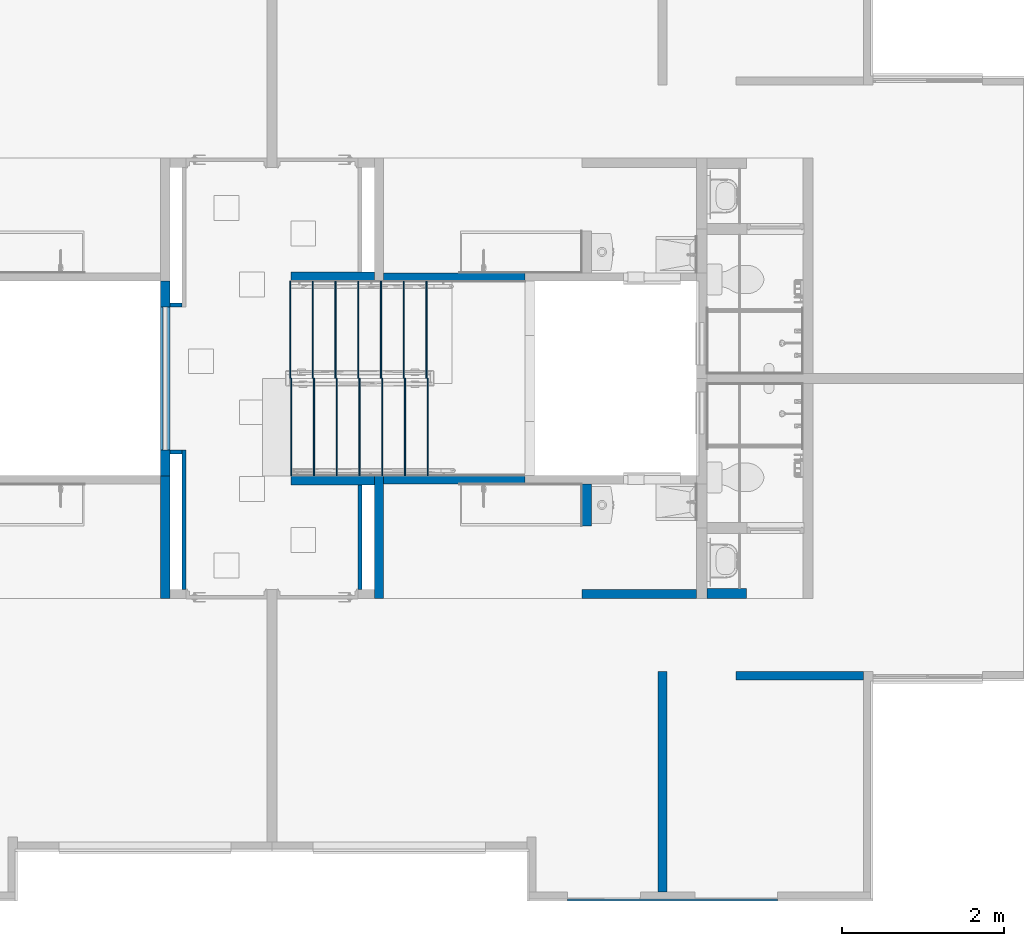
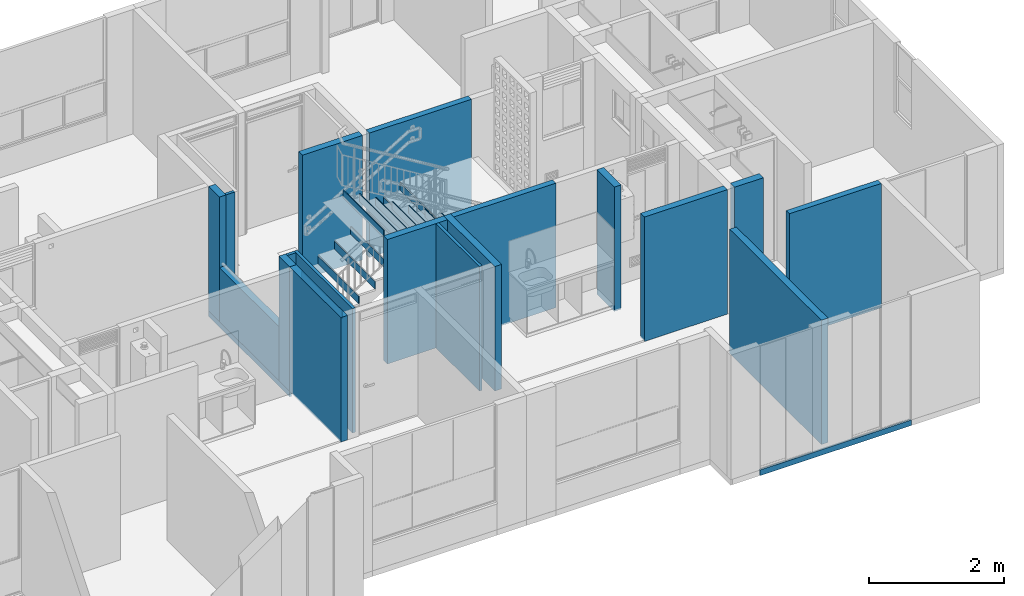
# One storey, part 13 of 48: 34 walls.
"""IFC4 building model written with IfcOpenShell, lengths in metres."""

import ifcopenshell
import ifcopenshell.guid

model = None  # the IFC model being written
_history = None  # IfcOwnerHistory: only IFC2X3 demands one
_inside = {}  # id of a spatial element -> (the spatial element, [elements in it])
_under = {}  # id of a project, library or spatial element -> (it, [spatial elements below it])
_declared = {}  # id of a project -> (the project, [libraries it declares])
_typed = {}  # id of a type object -> (the type object, [elements of that type])
_made_of = {}  # id of a material, layer set ... -> (it, [elements and type objects made of it])


def new_model(schema):
    """Start an empty IFC model of exactly this schema.

    Asked for "IFC4X3", IfcOpenShell would pick the latest addendum, in which some entities
    have other attributes; the version numbers below select the first issue.
    IFC2X3 requires an IfcOwnerHistory on every rooted entity: one is made here for all.
    """
    global model, _history
    if schema == "IFC4X3":
        model = ifcopenshell.file(schema_version=(4, 3, 0, 0))
    else:
        model = ifcopenshell.file(schema=schema)
    _inside.clear()
    _under.clear()
    _declared.clear()
    _typed.clear()
    _made_of.clear()
    _history = None
    if model.schema == "IFC2X3":
        org = make("IfcOrganization", Name="unknown")
        user = make(
            "IfcPersonAndOrganization",
            ThePerson=make("IfcPerson", FamilyName="unknown"),
            TheOrganization=org,
        )
        app = make(
            "IfcApplication",
            ApplicationDeveloper=org,
            Version="unknown",
            ApplicationFullName="unknown",
            ApplicationIdentifier="unknown",
        )
        _history = make(
            "IfcOwnerHistory",
            OwningUser=user,
            OwningApplication=app,
            ChangeAction="ADDED",
            CreationDate=0,
        )
    return model


def make(cls, **values):
    """One entity of the class cls with the attributes given. An attribute that is None is left unset."""
    return model.create_entity(
        cls, **{name: value for name, value in values.items() if value is not None}
    )


def entity(cls, *values):
    """Any entity or typed value of the class cls, its attributes in the order of the schema. None: left unset."""
    e = model.create_entity(cls)
    for i, value in enumerate(values):
        if value is not None:
            e[i] = value
    return e


def rooted(cls, **values):
    """An entity with a GlobalId (a new one), such as an element, a storey or a relation."""
    return make(cls, GlobalId=ifcopenshell.guid.new(), OwnerHistory=_history, **values)


def si_unit(unit_type, name, prefix=None):
    """IfcSIUnit, for example si_unit("LENGTHUNIT", "METRE", prefix="MILLI")."""
    return make("IfcSIUnit", UnitType=unit_type, Prefix=prefix, Name=name)


def converted_unit(unit_type, name, factor, base, dimensions=None, offset=None):
    """IfcConversionBasedUnit, such as the inch: factor (a typed value) times the base unit."""
    return make(
        "IfcConversionBasedUnit"
        if offset is None
        else "IfcConversionBasedUnitWithOffset",
        ConversionOffset=offset,
        Dimensions=None
        if dimensions is None
        else entity("IfcDimensionalExponents", *dimensions),
        UnitType=unit_type,
        Name=name,
        ConversionFactor=make(
            "IfcMeasureWithUnit", ValueComponent=factor, UnitComponent=base
        ),
    )


def derived_unit(unit_type, elements):
    """IfcDerivedUnit: a product of units, each with its exponent."""
    return make(
        "IfcDerivedUnit",
        Elements=[
            make("IfcDerivedUnitElement", Unit=unit, Exponent=power)
            for unit, power in elements
        ],
        UnitType=unit_type,
    )


def assignment(units):
    """IfcUnitAssignment: the units of a project."""
    return None if units is None else make("IfcUnitAssignment", Units=units)


def point(xyz):
    """IfcCartesianPoint."""
    return None if xyz is None else make("IfcCartesianPoint", Coordinates=xyz)


def direction(xyz):
    """IfcDirection."""
    return None if xyz is None else make("IfcDirection", DirectionRatios=xyz)


def frame(location, z_axis=None, x_axis=None):
    """IfcAxis2Placement3D, a coordinate frame: its origin and axes. An axis left out is left unset."""
    return make(
        "IfcAxis2Placement3D",
        Location=point(location),
        Axis=direction(z_axis),
        RefDirection=direction(x_axis),
    )


def origin():
    """The frame at (0, 0, 0) with its axes left unset."""
    return frame((0.0, 0.0, 0.0))


def place(relative_to, where):
    """IfcLocalPlacement: puts the frame where relative to a parent placement (None: the world)."""
    return make(
        "IfcLocalPlacement", PlacementRelTo=relative_to, RelativePlacement=where
    )


def context(
    kind, dimensions, precision=None, world=None, true_north=None, identifier=None
):
    """IfcGeometricRepresentationContext, for example the 3D "Model" context."""
    return make(
        "IfcGeometricRepresentationContext",
        ContextIdentifier=identifier,
        ContextType=kind,
        CoordinateSpaceDimension=dimensions,
        Precision=precision,
        WorldCoordinateSystem=world,
        TrueNorth=true_north,
    )


def subcontext(parent, identifier, kind, view, scale=None):
    """IfcGeometricRepresentationSubContext, for example "Body" below "Model"."""
    return make(
        "IfcGeometricRepresentationSubContext",
        ContextIdentifier=identifier,
        ContextType=kind,
        ParentContext=parent,
        TargetScale=scale,
        TargetView=view,
    )


def project(units=None, contexts=None):
    """IfcProject with its units and contexts."""
    return rooted(
        "IfcProject",
        Name="project",
        RepresentationContexts=contexts,
        UnitsInContext=assignment(units),
    )


def spatial(cls, under=None, at=None, **own):
    """A site, building, storey or space (cls), placed at a placement, below another one or the project."""
    s = rooted(cls, ObjectPlacement=at, **own)
    if under is not None:
        _under.setdefault(under.id(), (under, []))[1].append(s)
    return s


def point_list(points):
    """IfcCartesianPointList2D or 3D."""
    cls = (
        "IfcCartesianPointList2D" if len(points[0]) == 2 else "IfcCartesianPointList3D"
    )
    return make(cls, CoordList=points)


def indexed_curve(points, segments=None, self_intersect=None):
    """IfcIndexedPolyCurve: lines and arcs through numbered points (the first is 1)."""
    return make(
        "IfcIndexedPolyCurve",
        Points=point_list(points),
        Segments=segments,
        SelfIntersect=self_intersect,
    )


def outline(outer, holes=None, kind="AREA"):
    """IfcArbitraryClosedProfileDef: a profile drawn as a closed curve; with holes, ...WithVoids."""
    if holes is None:
        return make("IfcArbitraryClosedProfileDef", ProfileType=kind, OuterCurve=outer)
    return make(
        "IfcArbitraryProfileDefWithVoids",
        ProfileType=kind,
        OuterCurve=outer,
        InnerCurves=holes,
    )


def extrude(swept, where, along, depth):
    """IfcExtrudedAreaSolid: the profile swept, set in the frame where, extruded along a direction by depth."""
    return make(
        "IfcExtrudedAreaSolid",
        SweptArea=swept,
        Position=where,
        ExtrudedDirection=direction(along),
        Depth=depth,
    )


def shape(context_of_items, identifier, shape_type, items):
    """IfcShapeRepresentation: the items that make up one representation, for example the "Body"."""
    return make(
        "IfcShapeRepresentation",
        ContextOfItems=context_of_items,
        RepresentationIdentifier=identifier,
        RepresentationType=shape_type,
        Items=items,
    )


def material(Name=None, Category=None):
    """IfcMaterial."""
    return make("IfcMaterial", Name=Name, Category=Category)


def constituent(of_material, Name=None, Category=None, fraction=None):
    """IfcMaterialConstituent: one of the materials an element consists of."""
    return make(
        "IfcMaterialConstituent",
        Name=Name,
        Material=of_material,
        Fraction=fraction,
        Category=Category,
    )


def constituent_set(constituents=None, Name=None):
    """IfcMaterialConstituentSet."""
    return make(
        "IfcMaterialConstituentSet", Name=Name, MaterialConstituents=constituents
    )


def made_of(thing, what):
    """Note that an element or type object is made of a material, layer set ...; save() writes the relation."""
    if what is not None:
        _made_of.setdefault(what.id(), (what, []))[1].append(thing)
    return thing


def type_object(cls, material=None, **own):
    """A type object (cls), such as IfcWallType, which elements share."""
    return made_of(rooted(cls, **own), material)


def element(
    cls,
    number,
    at=None,
    inside=None,
    cuts=None,
    type_object=None,
    material=None,
    context=None,
    identifier="Body",
    shape_type=None,
    held_by="IfcProductDefinitionShape",
    body=None,
    shapes=None,
    **own,
):
    """One element of the class cls, such as IfcWall. Its Tag is "e" and its number.

    at: its placement. inside: the storey or other place that contains it. cuts: it is an
    opening in that element (IfcRelVoidsElement). A single representation is given by context,
    identifier, shape_type and body (its items); several are given by shapes. held_by: the class
    of the entity that holds the representations. save() writes the other relations.
    """
    e = rooted(cls, Tag="e%d" % number, ObjectPlacement=at, **own)
    if body is not None:
        shapes = [shape(context, identifier, shape_type, body)]
    if shapes is not None:
        e.Representation = make(held_by, Representations=shapes)
    if inside is not None:
        _inside.setdefault(inside.id(), (inside, []))[1].append(e)
    if cuts is not None:
        rooted(
            "IfcRelVoidsElement", RelatingBuildingElement=cuts, RelatedOpeningElement=e
        )
    if type_object is not None:
        _typed.setdefault(type_object.id(), (type_object, []))[1].append(e)
    return made_of(e, material)


def aggregate(whole, parts):
    """IfcRelAggregates: a whole, such as a stair, and the parts it consists of."""
    return rooted("IfcRelAggregates", RelatingObject=whole, RelatedObjects=parts)


def save(model, path):
    """Write the relations noted so far, then the file.

    IfcRelAggregates (storeys below a building ...), IfcRelContainedInSpatialStructure (elements
    in a storey), IfcRelDefinesByType, IfcRelAssociatesMaterial and IfcRelDeclares: one each for
    every whole, place, type object, material and project.
    """
    for whole, parts in _under.values():
        aggregate(whole, parts)
    for where, things in _inside.values():
        rooted(
            "IfcRelContainedInSpatialStructure",
            RelatedElements=things,
            RelatingStructure=where,
        )
    for kind, things in _typed.values():
        rooted("IfcRelDefinesByType", RelatedObjects=things, RelatingType=kind)
    for what, things in _made_of.values():
        rooted("IfcRelAssociatesMaterial", RelatedObjects=things, RelatingMaterial=what)
    for by, libraries in _declared.values():
        rooted("IfcRelDeclares", RelatingContext=by, RelatedDefinitions=libraries)
    model.write(path)


model = new_model("IFC4")

# Units and contexts
model_context = context("Model", 3, precision=1e-05, world=origin(), true_north=direction((6.123031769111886e-17, 1.0)))
body_context = subcontext(model_context, "Body", "Model", "MODEL_VIEW")
ifc_project = project(units=[si_unit("LENGTHUNIT", "METRE"), si_unit("AREAUNIT", "SQUARE_METRE"), si_unit("VOLUMEUNIT", "CUBIC_METRE"), converted_unit("PLANEANGLEUNIT", "DEGREE", entity("IfcRatioMeasure", 0.017453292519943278), si_unit("PLANEANGLEUNIT", "RADIAN"), dimensions=[0, 0, 0, 0, 0, 0, 0]), si_unit("MASSUNIT", "GRAM", prefix="KILO"), derived_unit("MASSDENSITYUNIT", [(si_unit("MASSUNIT", "GRAM", prefix="KILO"), 1), (si_unit("LENGTHUNIT", "METRE"), -3)]), derived_unit("IONCONCENTRATIONUNIT", [(si_unit("MASSUNIT", "GRAM", prefix="KILO"), 1), (si_unit("LENGTHUNIT", "METRE"), -3)]), derived_unit("MOMENTOFINERTIAUNIT", [(si_unit("LENGTHUNIT", "METRE"), 4)]), si_unit("TIMEUNIT", "SECOND"), si_unit("FREQUENCYUNIT", "HERTZ"), si_unit("THERMODYNAMICTEMPERATUREUNIT", "DEGREE_CELSIUS"), derived_unit("THERMALTRANSMITTANCEUNIT", [(si_unit("MASSUNIT", "GRAM", prefix="KILO"), 1), (si_unit("THERMODYNAMICTEMPERATUREUNIT", "KELVIN"), -1), (si_unit("TIMEUNIT", "SECOND"), -3)]), derived_unit("THERMALCONDUCTANCEUNIT", [(si_unit("MASSUNIT", "GRAM", prefix="KILO"), 1), (si_unit("THERMODYNAMICTEMPERATUREUNIT", "KELVIN"), -1), (si_unit("TIMEUNIT", "SECOND"), -3), (si_unit("LENGTHUNIT", "METRE"), 1)]), derived_unit("VOLUMETRICFLOWRATEUNIT", [(si_unit("LENGTHUNIT", "METRE"), 3), (si_unit("TIMEUNIT", "SECOND"), -1)]), derived_unit("MASSFLOWRATEUNIT", [(si_unit("MASSUNIT", "GRAM", prefix="KILO"), 1), (si_unit("TIMEUNIT", "SECOND"), -1)]), derived_unit("ROTATIONALFREQUENCYUNIT", [(si_unit("TIMEUNIT", "SECOND"), -1)]), si_unit("ELECTRICCURRENTUNIT", "AMPERE"), si_unit("ELECTRICVOLTAGEUNIT", "VOLT"), si_unit("POWERUNIT", "WATT"), si_unit("FORCEUNIT", "NEWTON", prefix="KILO"), si_unit("ILLUMINANCEUNIT", "LUX"), si_unit("LUMINOUSFLUXUNIT", "LUMEN"), si_unit("LUMINOUSINTENSITYUNIT", "CANDELA"), derived_unit("USERDEFINED", [(si_unit("MASSUNIT", "GRAM", prefix="KILO"), -1), (si_unit("LENGTHUNIT", "METRE"), -2), (si_unit("TIMEUNIT", "SECOND"), 3), (si_unit("LUMINOUSFLUXUNIT", "LUMEN"), 1)]), derived_unit("USERDEFINED", [(si_unit("MASSUNIT", "GRAM", prefix="KILO"), 1), (si_unit("TIMEUNIT", "SECOND"), -3), (si_unit("LENGTHUNIT", "METRE"), 3), (si_unit("ELECTRICCURRENTUNIT", "AMPERE"), -2)]), derived_unit("SOUNDPOWERUNIT", [(si_unit("MASSUNIT", "GRAM", prefix="KILO"), 1), (si_unit("TIMEUNIT", "SECOND"), -3), (si_unit("LENGTHUNIT", "METRE"), 2)]), derived_unit("SOUNDPRESSUREUNIT", [(si_unit("MASSUNIT", "GRAM", prefix="KILO"), 1), (si_unit("LENGTHUNIT", "METRE"), -1), (si_unit("TIMEUNIT", "SECOND"), -2)]), derived_unit("LINEARVELOCITYUNIT", [(si_unit("LENGTHUNIT", "METRE"), 1), (si_unit("TIMEUNIT", "SECOND"), -1)]), si_unit("PRESSUREUNIT", "PASCAL"), derived_unit("USERDEFINED", [(si_unit("MASSUNIT", "GRAM", prefix="KILO"), 1), (si_unit("LENGTHUNIT", "METRE"), -2), (si_unit("TIMEUNIT", "SECOND"), -2)]), derived_unit("LINEARFORCEUNIT", [(si_unit("MASSUNIT", "GRAM", prefix="KILO"), 1), (si_unit("TIMEUNIT", "SECOND"), -2)]), derived_unit("PLANARFORCEUNIT", [(si_unit("MASSUNIT", "GRAM", prefix="KILO"), 1), (si_unit("LENGTHUNIT", "METRE"), -1), (si_unit("TIMEUNIT", "SECOND"), -2)]), derived_unit("SPECIFICHEATCAPACITYUNIT", [(si_unit("THERMODYNAMICTEMPERATUREUNIT", "KELVIN"), -1), (si_unit("LENGTHUNIT", "METRE"), 2), (si_unit("TIMEUNIT", "SECOND"), -2)]), derived_unit("HEATINGVALUEUNIT", [(si_unit("LENGTHUNIT", "METRE"), 2), (si_unit("TIMEUNIT", "SECOND"), -2)]), derived_unit("VAPORPERMEABILITYUNIT", [(si_unit("LENGTHUNIT", "METRE"), -1), (si_unit("TIMEUNIT", "SECOND"), 1)]), derived_unit("DYNAMICVISCOSITYUNIT", [(si_unit("MASSUNIT", "GRAM", prefix="KILO"), 1), (si_unit("TIMEUNIT", "SECOND"), -1), (si_unit("LENGTHUNIT", "METRE"), -1)]), derived_unit("THERMALEXPANSIONCOEFFICIENTUNIT", [(si_unit("THERMODYNAMICTEMPERATUREUNIT", "KELVIN"), -1)]), derived_unit("MODULUSOFELASTICITYUNIT", [(si_unit("MASSUNIT", "GRAM", prefix="KILO"), 1), (si_unit("LENGTHUNIT", "METRE"), -1), (si_unit("TIMEUNIT", "SECOND"), -2)]), derived_unit("ISOTHERMALMOISTURECAPACITYUNIT", [(si_unit("LENGTHUNIT", "METRE"), 3), (si_unit("MASSUNIT", "GRAM", prefix="KILO"), -1)]), derived_unit("MOISTUREDIFFUSIVITYUNIT", [(si_unit("TIMEUNIT", "SECOND"), -1), (si_unit("LENGTHUNIT", "METRE"), 2)])], contexts=[model_context])

# Site, building, storey
site_placement = place(None, origin())
site = spatial("IfcSite", under=ifc_project, at=site_placement, Name="Default", CompositionType="ELEMENT")
building_placement = place(site_placement, origin())
building = spatial("IfcBuilding", under=site, at=building_placement, CompositionType="ELEMENT")
storey_placement = place(building_placement, frame((0.0, 0.0, 4.700000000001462)))
storey = spatial("IfcBuildingStorey", under=building, at=storey_placement, Name="Nivel 3", CompositionType="ELEMENT", Elevation=4.700000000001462)

# Walls
ifc_material_1 = material(Name="Ladrillo claro (Aire)", Category="Materials")
wall_type_1 = type_object("IfcWallType", Name="Basic Wall:B2010 - 0.115m - Muro interior en mampostería - Ladrillo", PredefinedType="STANDARD")
wall_1_placement = place(storey_placement, frame((14.135000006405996, -12.755000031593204, 0.0), z_axis=(0.0, 0.0, 1.0), x_axis=(0.0, 1.0, 0.0)))
element("IfcWall", 1, at=wall_1_placement, inside=storey, type_object=wall_type_1, material=ifc_material_1, Name="Basic Wall:B2010 - 0.115m - Muro interior en mampostería - Ladrillo", ObjectType="Basic Wall:B2010 - 0.115m - Muro interior en mampostería - Ladrillo", PredefinedType="NOTDEFINED", context=body_context, shape_type="SweptSolid", body=[
    extrude(outline(indexed_curve([(2.7150000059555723, 0.05750000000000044), (8.08167206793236e-17, 0.057499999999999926), (-8.08167206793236e-17, -0.057499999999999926), (2.7150000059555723, -0.057499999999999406), (2.7150000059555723, 0.05750000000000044)], self_intersect=False)), origin(), (0.0, 0.0, 1.0), 2.2499999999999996),
])
wall_2_placement = place(storey_placement, frame((14.557500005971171, -9.082499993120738, 0.0), z_axis=(0.0, 0.0, 1.0), x_axis=(-1.0, 0.0, 0.0)))
element("IfcWall", 2, at=wall_2_placement, inside=storey, type_object=wall_type_1, material=ifc_material_1, Name="Basic Wall:B2010 - 0.115m - Muro interior en mampostería - Ladrillo", ObjectType="Basic Wall:B2010 - 0.115m - Muro interior en mampostería - Ladrillo", PredefinedType="NOTDEFINED", context=body_context, shape_type="SweptSolid", body=[
    extrude(outline(indexed_curve([(1.4149999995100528, 0.05750000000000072), (-5.604877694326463e-16, 0.057499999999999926), (5.604877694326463e-16, -0.057499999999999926), (1.414999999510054, -0.05749999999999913), (1.4149999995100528, 0.05750000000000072)], self_intersect=False)), origin(), (0.0, 0.0, 1.0), 2.2499999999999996),
])
wall_3_placement = place(storey_placement, frame((10.639999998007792, -7.625000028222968, 0.0), z_axis=(0.0, 0.0, 1.0), x_axis=(0.0, -1.0, 0.0)))
element("IfcWall", 3, at=wall_3_placement, inside=storey, type_object=wall_type_1, material=ifc_material_1, Name="Basic Wall:B2010 - 0.115m - Muro interior en mampostería - Ladrillo", ObjectType="Basic Wall:B2010 - 0.115m - Muro interior en mampostería - Ladrillo", PredefinedType="NOTDEFINED", context=body_context, shape_type="SweptSolid", body=[
    extrude(outline(indexed_curve([(1.5150000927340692, 0.05750000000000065), (-2.7419363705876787e-16, 0.057499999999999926), (2.7419363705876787e-16, -0.057499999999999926), (1.5150000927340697, -0.0574999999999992), (1.5150000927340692, 0.05750000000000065)], self_intersect=False)), origin(), (0.0, 0.0, 1.0), 2.2499999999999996),
])
wall_4_placement = place(storey_placement, frame((8.00500000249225, -7.6250000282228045, 0.0), z_axis=(0.0, 0.0, 1.0), x_axis=(0.0, -1.0, 0.0)))
element("IfcWall", 4, at=wall_4_placement, inside=storey, type_object=wall_type_1, material=ifc_material_1, Name="Basic Wall:B2010 - 0.115m - Muro interior en mampostería - Ladrillo", ObjectType="Basic Wall:B2010 - 0.115m - Muro interior en mampostería - Ladrillo", PredefinedType="NOTDEFINED", context=body_context, shape_type="SweptSolid", body=[
    extrude(outline(indexed_curve([(1.5150000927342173, 0.05750000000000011), (-4.5913366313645e-16, 0.057499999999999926), (4.5913366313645e-16, -0.057499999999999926), (1.5150000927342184, -0.05749999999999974), (1.5150000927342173, 0.05750000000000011)], self_intersect=False)), origin(), (0.0, 0.0, 1.0), 2.250000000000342),
])
ifc_material_2 = material(Name="Concreto (Aire)", Category="Materials")
wall_type_2 = type_object("IfcWallType", Name="Basic Wall:B2010 - 0.10m - Muro interior en concreto", PredefinedType="STANDARD")
wall_5_placement = place(storey_placement, frame((16.612500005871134, -10.090000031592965, 0.0), z_axis=(0.0, 0.0, 1.0), x_axis=(-1.0, 0.0, 0.0)))
element("IfcWall", 5, at=wall_5_placement, inside=storey, type_object=wall_type_2, material=ifc_material_2, Name="Basic Wall:B2010 - 0.10m - Muro interior en concreto", ObjectType="Basic Wall:B2010 - 0.10m - Muro interior en concreto", PredefinedType="NOTDEFINED", context=body_context, shape_type="SweptSolid", body=[
    extrude(outline(indexed_curve([(1.5699999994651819, 0.04999999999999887), (7.775903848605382e-16, 0.04999999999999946), (-7.775903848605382e-16, -0.04999999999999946), (1.5699999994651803, -0.05000000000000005), (1.5699999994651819, 0.04999999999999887)], self_intersect=False)), origin(), (0.0, 0.0, 1.0), 2.2499999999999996),
])
ifc_material_3 = material(Name="Pañete", Category="Materials")
ifc_constituent_1 = constituent(ifc_material_3, Name="Pañete", Category="Materials")
ifc_constituent_2 = constituent(ifc_material_1, Name="Ladrillo claro (Aire)", Category="Materials")
ifc_constituent_set_1 = constituent_set(constituents=[ifc_constituent_1, ifc_constituent_2], Name="Basic Wall:B2010 - 0.115m - Muro interior en mampostería - Ladrillo + Pañete")
wall_type_3 = type_object("IfcWallType", Name="Basic Wall:B2010 - 0.115m - Muro interior en mampostería - Ladrillo + Pañete", PredefinedType="STANDARD", material=ifc_constituent_set_1)
wall_6_placement = place(storey_placement, frame((15.172500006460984, -9.07749999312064, 0.0), z_axis=(0.0, 0.0, 1.0), x_axis=(-1.0, 0.0, 0.0)))
element("IfcWall", 6, at=wall_6_placement, inside=storey, type_object=wall_type_3, material=ifc_constituent_set_1, Name="Basic Wall:B2010 - 0.115m - Muro interior en mampostería - Ladrillo + Pañete", ObjectType="Basic Wall:B2010 - 0.115m - Muro interior en mampostería - Ladrillo + Pañete", PredefinedType="NOTDEFINED", context=body_context, shape_type="SweptSolid", body=[
    extrude(outline(indexed_curve([(-0.005000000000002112, -0.24500000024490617), (0.0049999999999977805, -0.24500000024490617), (0.005000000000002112, 0.24500000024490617), (-0.0049999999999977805, 0.24500000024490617), (-0.005000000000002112, -0.24500000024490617)], self_intersect=False)), frame((0.24500000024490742, -0.057499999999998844, 0.0), z_axis=(0.0, 0.0, 1.0), x_axis=(0.0, 1.0, 0.0)), (0.0, 0.0, 1.0), 2.2500000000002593),
    extrude(outline(indexed_curve([(-0.05749999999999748, -0.24500000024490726), (0.05750000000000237, -0.24500000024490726), (0.05749999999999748, 0.2450000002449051), (-0.05750000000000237, 0.24500000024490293), (-0.05749999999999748, -0.24500000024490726)], self_intersect=False)), frame((0.245000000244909, 0.005000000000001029, 0.0), z_axis=(0.0, 0.0, 1.0), x_axis=(0.0, -1.0, 0.0)), (0.0, 0.0, 1.0), 2.2500000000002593),
])
ifc_material_4 = material(Name="LADRILLO CLARO", Category="Materials")
wall_type_4 = type_object("IfcWallType", Name="Basic Wall:B2010 - 0.115m - MI mampostería no estructural - Ladrillo", PredefinedType="STANDARD")
wall_7_placement = place(storey_placement, frame((8.005000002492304, -5.545000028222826, 0.0), z_axis=(0.0, 0.0, 1.0), x_axis=(0.0, -1.0, 0.0)))
element("IfcWall", 7, at=wall_7_placement, inside=storey, type_object=wall_type_4, material=ifc_material_4, Name="Basic Wall:B2010 - 0.115m - MI mampostería no estructural - Ladrillo", ObjectType="Basic Wall:B2010 - 0.115m - MI mampostería no estructural - Ladrillo", PredefinedType="NOTDEFINED", context=body_context, shape_type="SweptSolid", body=[
    extrude(outline(indexed_curve([(1.7599999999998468, 0.05750000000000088), (-1.0186480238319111e-16, 0.057499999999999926), (1.0186480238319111e-16, -0.057499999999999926), (1.7599999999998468, -0.05749999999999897), (1.7599999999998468, 0.05750000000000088)], self_intersect=False)), origin(), (0.0, 0.0, 1.0), 0.9749999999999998),
])
wall_8_placement = place(storey_placement, frame((13.200000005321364, -8.245000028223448, 0.0), z_axis=(0.0, 0.0, 1.0), x_axis=(0.0, 1.0, 0.0)))
element("IfcWall", 8, at=wall_8_placement, inside=storey, type_object=wall_type_4, material=ifc_material_4, Name="Basic Wall:B2010 - 0.115m - MI mampostería no estructural - Ladrillo", ObjectType="Basic Wall:B2010 - 0.115m - MI mampostería no estructural - Ladrillo", PredefinedType="NOTDEFINED", context=body_context, shape_type="SweptSolid", body=[
    extrude(outline(indexed_curve([(0.5195000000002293, 0.057499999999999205), (-1.6027407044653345e-16, 0.057499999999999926), (1.6027407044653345e-16, -0.057499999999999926), (0.5195000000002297, -0.05750000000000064), (0.5195000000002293, 0.057499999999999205)], self_intersect=False)), origin(), (0.0, 0.0, 1.0), 2.2500000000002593),
])
wall_9_placement = place(storey_placement, frame((8.00500000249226, -5.545000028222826, 0.0), z_axis=(0.0, 0.0, 1.0), x_axis=(0.0, 1.0, 0.0)))
element("IfcWall", 9, at=wall_9_placement, inside=storey, type_object=wall_type_4, material=ifc_material_4, Name="Basic Wall:B2010 - 0.115m - MI mampostería no estructural - Ladrillo", ObjectType="Basic Wall:B2010 - 0.115m - MI mampostería no estructural - Ladrillo", PredefinedType="NOTDEFINED", context=body_context, shape_type="SweptSolid", body=[
    extrude(outline(indexed_curve([(0.3200000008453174, 0.05750000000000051), (9.033989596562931e-17, 0.057499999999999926), (-9.033989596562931e-17, -0.057499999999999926), (0.3200000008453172, -0.057499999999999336), (0.3200000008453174, 0.05750000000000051)], self_intersect=False)), origin(), (0.0, 0.0, 1.0), 2.250000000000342),
])
wall_10_placement = place(storey_placement, frame((8.005000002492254, -7.305000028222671, 0.0), z_axis=(0.0, 0.0, 1.0), x_axis=(0.0, -1.0, 0.0)))
element("IfcWall", 10, at=wall_10_placement, inside=storey, type_object=wall_type_4, material=ifc_material_4, Name="Basic Wall:B2010 - 0.115m - MI mampostería no estructural - Ladrillo", ObjectType="Basic Wall:B2010 - 0.115m - MI mampostería no estructural - Ladrillo", PredefinedType="NOTDEFINED", context=body_context, shape_type="SweptSolid", body=[
    extrude(outline(indexed_curve([(0.3200000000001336, 0.05749999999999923), (-4.5913366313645e-16, 0.057499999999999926), (4.5913366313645e-16, -0.057499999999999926), (0.32000000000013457, -0.05750000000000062), (0.3200000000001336, 0.05749999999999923)], self_intersect=False)), origin(), (0.0, 0.0, 1.0), 2.250000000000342),
])
ifc_material_5 = material(Name="0 muro divisorio", Category="Materials")
wall_type_5 = type_object("IfcWallType", Name="Basic Wall:B2010 - 0.05m - MI No estructural- Concreto", PredefinedType="STANDARD")
wall_11_placement = place(storey_placement, frame((8.212500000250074, -5.520000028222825, 0.0), z_axis=(0.0, 0.0, 1.0), x_axis=(-1.0, 0.0, 0.0)))
element("IfcWall", 11, at=wall_11_placement, inside=storey, type_object=wall_type_5, material=ifc_material_5, Name="Basic Wall:B2010 - 0.05m - MI No estructural- Concreto", ObjectType="Basic Wall:B2010 - 0.05m - MI No estructural- Concreto", PredefinedType="NOTDEFINED", context=body_context, shape_type="SweptSolid", body=[
    extrude(outline(indexed_curve([(0.14999999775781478, 0.02499999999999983), (-1.6892508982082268e-17, 0.02499999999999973), (1.6892508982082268e-17, -0.02499999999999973), (0.1499999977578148, -0.02499999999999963), (0.14999999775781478, 0.02499999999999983)], self_intersect=False)), origin(), (0.0, 0.0, 1.0), 2.2499999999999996),
])
wall_12_placement = place(storey_placement, frame((8.237500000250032, -7.305000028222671, 0.0), z_axis=(0.0, 0.0, 1.0), x_axis=(0.0, -1.0, 0.0)))
element("IfcWall", 12, at=wall_12_placement, inside=storey, type_object=wall_type_5, material=ifc_material_5, Name="Basic Wall:B2010 - 0.05m - MI No estructural- Concreto", ObjectType="Basic Wall:B2010 - 0.05m - MI No estructural- Concreto", PredefinedType="NOTDEFINED", context=body_context, shape_type="SweptSolid", body=[
    extrude(outline(indexed_curve([(1.719999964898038, 0.02499999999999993), (-3.4343744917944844e-17, 0.02499999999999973), (3.4343744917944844e-17, -0.02499999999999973), (1.719999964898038, -0.024999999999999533), (1.719999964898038, 0.02499999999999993)], self_intersect=False)), origin(), (0.0, 0.0, 1.0), 2.2499999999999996),
])
wall_13_placement = place(storey_placement, frame((8.212500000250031, -7.330000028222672, 0.0), z_axis=(0.0, 0.0, 1.0), x_axis=(-1.0, 0.0, 0.0)))
element("IfcWall", 13, at=wall_13_placement, inside=storey, type_object=wall_type_5, material=ifc_material_5, Name="Basic Wall:B2010 - 0.05m - MI No estructural- Concreto", ObjectType="Basic Wall:B2010 - 0.05m - MI No estructural- Concreto", PredefinedType="NOTDEFINED", context=body_context, shape_type="SweptSolid", body=[
    extrude(outline(indexed_curve([(0.14999999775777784, 0.02499999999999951), (-1.4345260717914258e-16, 0.02499999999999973), (1.4345260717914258e-16, -0.02499999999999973), (0.14999999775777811, -0.024999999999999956), (0.14999999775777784, 0.02499999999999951)], self_intersect=False)), origin(), (0.0, 0.0, 1.0), 2.2499999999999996),
])
wall_14_placement = place(storey_placement, frame((10.407500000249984, -7.740000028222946, 0.0), z_axis=(0.0, 0.0, 1.0), x_axis=(0.0, -1.0, 0.0)))
element("IfcWall", 14, at=wall_14_placement, inside=storey, type_object=wall_type_5, material=ifc_material_5, Name="Basic Wall:B2010 - 0.05m - MI No estructural- Concreto", ObjectType="Basic Wall:B2010 - 0.05m - MI No estructural- Concreto", PredefinedType="NOTDEFINED", context=body_context, shape_type="SweptSolid", body=[
    extrude(outline(indexed_curve([(1.2849999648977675, 0.025000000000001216), (3.434374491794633e-17, 0.025000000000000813), (-3.434374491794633e-17, -0.025000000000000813), (1.2849999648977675, -0.02500000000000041), (1.2849999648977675, 0.025000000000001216)], self_intersect=False)), origin(), (0.0, 0.0, 1.0), 2.2499999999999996),
])
wall_type_6 = type_object("IfcWallType", Name="Basic Wall:B2010 - 0.03m - ME enchape  no estructural - Ladrillo", PredefinedType="STANDARD")
wall_15_placement = place(storey_placement, frame((7.962500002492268, -5.225000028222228, -0.1000000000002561), z_axis=(0.0, 0.0, 1.0), x_axis=(0.0, -1.0, 0.0)))
element("IfcWall", 15, at=wall_15_placement, inside=storey, type_object=wall_type_6, material=ifc_material_4, Name="Basic Wall:B2010 - 0.03m - ME enchape  no estructural - Ladrillo", ObjectType="Basic Wall:B2010 - 0.03m - ME enchape  no estructural - Ladrillo", PredefinedType="NOTDEFINED", context=body_context, shape_type="SweptSolid", body=[
    extrude(outline(indexed_curve([(2.4000000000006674, 0.014999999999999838), (-2.7071678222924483e-17, 0.014999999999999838), (2.7071678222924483e-17, -0.014999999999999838), (2.4000000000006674, -0.014999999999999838), (2.4000000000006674, 0.014999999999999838)], self_intersect=False)), origin(), (0.0, 0.0, 1.0), 0.1),
])
wall_16_placement = place(storey_placement, frame((12.962500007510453, -12.855000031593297, -0.1000000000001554)))
element("IfcWall", 16, at=wall_16_placement, inside=storey, type_object=wall_type_6, material=ifc_material_4, Name="Basic Wall:B2010 - 0.03m - ME enchape  no estructural - Ladrillo", ObjectType="Basic Wall:B2010 - 0.03m - ME enchape  no estructural - Ladrillo", PredefinedType="NOTDEFINED", context=body_context, shape_type="SweptSolid", body=[
    extrude(outline(indexed_curve([(2.5899999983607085, 0.015000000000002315), (-4.570130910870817e-17, 0.015000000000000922), (4.570130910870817e-17, -0.015000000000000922), (2.5899999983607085, -0.014999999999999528), (2.5899999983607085, 0.015000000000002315)], self_intersect=False)), origin(), (0.0, 0.0, 1.0), 0.1),
])
ifc_material_6 = material(Name="Pintura blanca", Category="Materials")
ifc_constituent_3 = constituent(ifc_material_6, Name="Pintura blanca", Category="Materials")
ifc_constituent_4 = constituent(ifc_material_2, Name="Concreto (Aire)", Category="Materials")
ifc_constituent_set_2 = constituent_set(constituents=[ifc_constituent_3, ifc_constituent_4], Name="Basic Wall:B2010 - 0.10m - MI Concreto- Concreto+ Pintura")
wall_type_7 = type_object("IfcWallType", Name="Basic Wall:B2010 - 0.10m - MI Concreto- Concreto+ Pintura", PredefinedType="STANDARD", material=ifc_constituent_set_2)
wall_17_placement = place(storey_placement, frame((10.6974999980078, -5.175000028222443, 0.0)))
element("IfcWall", 17, at=wall_17_placement, inside=storey, type_object=wall_type_7, material=ifc_constituent_set_2, Name="Basic Wall:B2010 - 0.10m - MI Concreto- Concreto+ Pintura", ObjectType="Basic Wall:B2010 - 0.10m - MI Concreto- Concreto+ Pintura", PredefinedType="NOTDEFINED", context=body_context, shape_type="SweptSolid", body=[
    extrude(outline(indexed_curve([(-0.000500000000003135, -0.8725000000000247), (0.0004999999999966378, -0.8725000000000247), (0.0005000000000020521, 0.8725000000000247), (-0.0004999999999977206, 0.8725000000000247), (-0.000500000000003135, -0.8725000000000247)], self_intersect=False)), frame((0.8725000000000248, -0.04999999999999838, 0.0), z_axis=(0.0, 0.0, 1.0), x_axis=(0.0, 1.0, 0.0)), (0.0, 0.0, 1.0), 2.250000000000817),
    extrude(outline(indexed_curve([(-0.05000000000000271, -0.8725000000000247), (0.0499999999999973, -0.8725000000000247), (0.05000000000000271, 0.8725000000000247), (-0.0499999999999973, 0.8725000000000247), (-0.05000000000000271, -0.8725000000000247)], self_intersect=False)), frame((0.8725000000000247, 0.0005000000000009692, 0.0), z_axis=(0.0, 0.0, 1.0), x_axis=(0.0, -1.0, 0.0)), (0.0, 0.0, 1.0), 2.250000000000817),
])
wall_18_placement = place(storey_placement, frame((10.69749999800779, -7.675000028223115, 0.0)))
element("IfcWall", 18, at=wall_18_placement, inside=storey, type_object=wall_type_7, material=ifc_constituent_set_2, Name="Basic Wall:B2010 - 0.10m - MI Concreto- Concreto+ Pintura", ObjectType="Basic Wall:B2010 - 0.10m - MI Concreto- Concreto+ Pintura", PredefinedType="NOTDEFINED", context=body_context, shape_type="SweptSolid", body=[
    extrude(outline(indexed_curve([(-0.000500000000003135, -0.8725000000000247), (0.0004999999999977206, -0.8725000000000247), (0.000500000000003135, 0.8725000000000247), (-0.0004999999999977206, 0.8725000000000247), (-0.000500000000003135, -0.8725000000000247)], self_intersect=False)), frame((0.8725000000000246, 0.04999999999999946, 0.0), z_axis=(0.0, 0.0, 1.0), x_axis=(0.0, -1.0, 0.0)), (0.0, 0.0, 1.0), 2.250000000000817),
    extrude(outline(indexed_curve([(-0.05000000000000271, -0.8725000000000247), (0.049999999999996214, -0.8725000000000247), (0.050000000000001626, 0.8725000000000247), (-0.0499999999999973, 0.8725000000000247), (-0.05000000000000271, -0.8725000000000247)], self_intersect=False)), frame((0.8725000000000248, -0.0004999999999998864, 0.0), z_axis=(0.0, 0.0, 1.0), x_axis=(0.0, 1.0, 0.0)), (0.0, 0.0, 1.0), 2.250000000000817),
])
ifc_material_7 = material(Name="PISO GRES SAHARA 30X30", Category="Materials")
wall_type_8 = type_object("IfcWallType", Name="Basic Wall:B2010 - 0.015-Enchape- Gres", PredefinedType="STANDARD")
wall_19_placement = place(storey_placement, frame((9.545000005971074, -5.225000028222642, 0.029999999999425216), z_axis=(0.0, 0.0, 1.0), x_axis=(0.0, -1.0, 0.0)))
element("IfcWall", 19, at=wall_19_placement, inside=storey, type_object=wall_type_8, material=ifc_material_7, Name="Basic Wall:B2010 - 0.015-Enchape- Gres", ObjectType="Basic Wall:B2010 - 0.015-Enchape- Gres", PredefinedType="NOTDEFINED", context=body_context, shape_type="SweptSolid", body=[
    extrude(outline(indexed_curve([(1.1999999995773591, 0.007500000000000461), (-1.3535839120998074e-17, 0.007500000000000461), (1.3535839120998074e-17, -0.007500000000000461), (1.1999999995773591, -0.007500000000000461), (1.1999999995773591, 0.007500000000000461)], self_intersect=False)), origin(), (0.0, 0.0, 1.0), 0.137857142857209),
])
wall_20_placement = place(storey_placement, frame((9.825000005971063, -5.22500002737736, 0.19785714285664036), z_axis=(0.0, 0.0, 1.0), x_axis=(0.0, -1.0, 0.0)))
element("IfcWall", 20, at=wall_20_placement, inside=storey, type_object=wall_type_8, material=ifc_material_7, Name="Basic Wall:B2010 - 0.015-Enchape- Gres", ObjectType="Basic Wall:B2010 - 0.015-Enchape- Gres", PredefinedType="NOTDEFINED", context=body_context, shape_type="SweptSolid", body=[
    extrude(outline(indexed_curve([(1.200000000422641, 0.007500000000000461), (0.0, 0.007500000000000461), (0.0, -0.007500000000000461), (1.200000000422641, -0.007500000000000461), (1.200000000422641, 0.007500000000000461)], self_intersect=False)), origin(), (0.0, 0.0, 1.0), 0.13785714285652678),
])
wall_21_placement = place(storey_placement, frame((10.10500000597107, -5.22500002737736, 0.36571428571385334), z_axis=(0.0, 0.0, 1.0), x_axis=(0.0, -1.0, 0.0)))
element("IfcWall", 21, at=wall_21_placement, inside=storey, type_object=wall_type_8, material=ifc_material_7, Name="Basic Wall:B2010 - 0.015-Enchape- Gres", ObjectType="Basic Wall:B2010 - 0.015-Enchape- Gres", PredefinedType="NOTDEFINED", context=body_context, shape_type="SweptSolid", body=[
    extrude(outline(indexed_curve([(1.200000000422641, 0.007500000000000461), (0.0, 0.007500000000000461), (0.0, -0.007500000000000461), (1.200000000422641, -0.007500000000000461), (1.200000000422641, 0.007500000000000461)], self_intersect=False)), origin(), (0.0, 0.0, 1.0), 0.13785714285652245),
])
wall_22_placement = place(storey_placement, frame((10.385000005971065, -5.22500002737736, 0.5335714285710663), z_axis=(0.0, 0.0, 1.0), x_axis=(0.0, -1.0, 0.0)))
element("IfcWall", 22, at=wall_22_placement, inside=storey, type_object=wall_type_8, material=ifc_material_7, Name="Basic Wall:B2010 - 0.015-Enchape- Gres", ObjectType="Basic Wall:B2010 - 0.015-Enchape- Gres", PredefinedType="NOTDEFINED", context=body_context, shape_type="SweptSolid", body=[
    extrude(outline(indexed_curve([(1.200000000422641, 0.007500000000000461), (-2.7071678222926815e-17, 0.007500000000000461), (2.7071678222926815e-17, -0.007500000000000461), (1.200000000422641, -0.007500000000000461), (1.200000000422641, 0.007500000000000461)], self_intersect=False)), origin(), (0.0, 0.0, 1.0), 0.13785714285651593),
])
wall_23_placement = place(storey_placement, frame((10.665000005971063, -5.225000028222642, 0.7014285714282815), z_axis=(0.0, 0.0, 1.0), x_axis=(0.0, -1.0, 0.0)))
element("IfcWall", 23, at=wall_23_placement, inside=storey, type_object=wall_type_8, material=ifc_material_7, Name="Basic Wall:B2010 - 0.015-Enchape- Gres", ObjectType="Basic Wall:B2010 - 0.015-Enchape- Gres", PredefinedType="NOTDEFINED", context=body_context, shape_type="SweptSolid", body=[
    extrude(outline(indexed_curve([(1.1999999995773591, 0.007500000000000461), (-1.3535839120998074e-17, 0.007500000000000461), (1.3535839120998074e-17, -0.007500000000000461), (1.1999999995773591, -0.007500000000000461), (1.1999999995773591, 0.007500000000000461)], self_intersect=False)), origin(), (0.0, 0.0, 1.0), 0.13785714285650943),
])
wall_24_placement = place(storey_placement, frame((10.945000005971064, -5.22500002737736, 0.8692857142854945), z_axis=(0.0, 0.0, 1.0), x_axis=(0.0, -1.0, 0.0)))
element("IfcWall", 24, at=wall_24_placement, inside=storey, type_object=wall_type_8, material=ifc_material_7, Name="Basic Wall:B2010 - 0.015-Enchape- Gres", ObjectType="Basic Wall:B2010 - 0.015-Enchape- Gres", PredefinedType="NOTDEFINED", context=body_context, shape_type="SweptSolid", body=[
    extrude(outline(indexed_curve([(1.200000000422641, 0.007500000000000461), (0.0, 0.007500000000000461), (0.0, -0.007500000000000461), (1.200000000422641, -0.007500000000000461), (1.200000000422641, 0.007500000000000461)], self_intersect=False)), origin(), (0.0, 0.0, 1.0), 0.1378571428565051),
])
wall_25_placement = place(storey_placement, frame((11.225000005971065, -5.22500002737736, 1.0371428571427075), z_axis=(0.0, 0.0, 1.0), x_axis=(0.0, -1.0, 0.0)))
element("IfcWall", 25, at=wall_25_placement, inside=storey, type_object=wall_type_8, material=ifc_material_7, Name="Basic Wall:B2010 - 0.015-Enchape- Gres", ObjectType="Basic Wall:B2010 - 0.015-Enchape- Gres", PredefinedType="NOTDEFINED", context=body_context, shape_type="SweptSolid", body=[
    extrude(outline(indexed_curve([(1.200000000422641, 0.007500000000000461), (-2.7071678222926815e-17, 0.007500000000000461), (2.7071678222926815e-17, -0.007500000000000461), (1.200000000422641, -0.007500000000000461), (1.200000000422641, 0.007500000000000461)], self_intersect=False)), origin(), (0.0, 0.0, 1.0), 0.13785714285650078),
])
wall_26_placement = place(storey_placement, frame((11.240000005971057, -6.425000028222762, 1.2049999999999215), z_axis=(0.0, 0.0, 1.0), x_axis=(0.0, -1.0, 0.0)))
element("IfcWall", 26, at=wall_26_placement, inside=storey, type_object=wall_type_8, material=ifc_material_7, Name="Basic Wall:B2010 - 0.015-Enchape- Gres", ObjectType="Basic Wall:B2010 - 0.015-Enchape- Gres", PredefinedType="NOTDEFINED", context=body_context, shape_type="SweptSolid", body=[
    extrude(outline(indexed_curve([(1.199999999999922, 0.007500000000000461), (2.7071678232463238e-17, 0.007500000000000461), (-2.7071678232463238e-17, -0.007500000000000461), (1.199999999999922, -0.007500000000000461), (1.199999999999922, 0.007500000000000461)], self_intersect=False)), origin(), (0.0, 0.0, 1.0), 0.13785714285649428),
])
wall_27_placement = place(storey_placement, frame((10.960000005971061, -6.425000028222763, 1.3728571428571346), z_axis=(0.0, 0.0, 1.0), x_axis=(0.0, -1.0, 0.0)))
element("IfcWall", 27, at=wall_27_placement, inside=storey, type_object=wall_type_8, material=ifc_material_7, Name="Basic Wall:B2010 - 0.015-Enchape- Gres", ObjectType="Basic Wall:B2010 - 0.015-Enchape- Gres", PredefinedType="NOTDEFINED", context=body_context, shape_type="SweptSolid", body=[
    extrude(outline(indexed_curve([(1.1999999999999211, 0.007500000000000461), (2.7071678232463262e-17, 0.007500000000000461), (-2.7071678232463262e-17, -0.007500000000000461), (1.1999999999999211, -0.007500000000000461), (1.1999999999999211, 0.007500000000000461)], self_intersect=False)), origin(), (0.0, 0.0, 1.0), 0.13785714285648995),
])
wall_28_placement = place(storey_placement, frame((10.68000000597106, -6.425000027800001, 1.5407142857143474), z_axis=(0.0, 0.0, 1.0), x_axis=(0.0, -1.0, 0.0)))
element("IfcWall", 28, at=wall_28_placement, inside=storey, type_object=wall_type_8, material=ifc_material_7, Name="Basic Wall:B2010 - 0.015-Enchape- Gres", ObjectType="Basic Wall:B2010 - 0.015-Enchape- Gres", PredefinedType="NOTDEFINED", context=body_context, shape_type="SweptSolid", body=[
    extrude(outline(indexed_curve([(1.2000000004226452, 0.007500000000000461), (1.3535839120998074e-17, 0.007500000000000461), (-1.3535839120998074e-17, -0.007500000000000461), (1.2000000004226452, -0.007500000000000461), (1.2000000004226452, 0.007500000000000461)], self_intersect=False)), origin(), (0.0, 0.0, 1.0), 0.13785714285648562),
])
wall_29_placement = place(storey_placement, frame((10.400000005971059, -6.425000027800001, 1.7085714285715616), z_axis=(0.0, 0.0, 1.0), x_axis=(0.0, -1.0, 0.0)))
element("IfcWall", 29, at=wall_29_placement, inside=storey, type_object=wall_type_8, material=ifc_material_7, Name="Basic Wall:B2010 - 0.015-Enchape- Gres", ObjectType="Basic Wall:B2010 - 0.015-Enchape- Gres", PredefinedType="NOTDEFINED", context=body_context, shape_type="SweptSolid", body=[
    extrude(outline(indexed_curve([(1.2000000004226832, 0.007500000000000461), (2.7071678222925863e-17, 0.007500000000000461), (-2.7071678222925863e-17, -0.007500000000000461), (1.2000000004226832, -0.007500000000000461), (1.2000000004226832, 0.007500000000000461)], self_intersect=False)), origin(), (0.0, 0.0, 1.0), 0.13785714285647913),
])
wall_30_placement = place(storey_placement, frame((10.120000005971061, -6.425000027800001, 1.8764285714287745), z_axis=(0.0, 0.0, 1.0), x_axis=(0.0, -1.0, 0.0)))
element("IfcWall", 30, at=wall_30_placement, inside=storey, type_object=wall_type_8, material=ifc_material_7, Name="Basic Wall:B2010 - 0.015-Enchape- Gres", ObjectType="Basic Wall:B2010 - 0.015-Enchape- Gres", PredefinedType="NOTDEFINED", context=body_context, shape_type="SweptSolid", body=[
    extrude(outline(indexed_curve([(1.2000000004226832, 0.007500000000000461), (2.7071678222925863e-17, 0.007500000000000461), (-2.7071678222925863e-17, -0.007500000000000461), (1.2000000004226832, -0.007500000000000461), (1.2000000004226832, 0.007500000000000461)], self_intersect=False)), origin(), (0.0, 0.0, 1.0), 0.1378571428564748),
])
wall_31_placement = place(storey_placement, frame((9.840000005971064, -6.425000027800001, 2.04428571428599), z_axis=(0.0, 0.0, 1.0), x_axis=(0.0, -1.0, 0.0)))
element("IfcWall", 31, at=wall_31_placement, inside=storey, type_object=wall_type_8, material=ifc_material_7, Name="Basic Wall:B2010 - 0.015-Enchape- Gres", ObjectType="Basic Wall:B2010 - 0.015-Enchape- Gres", PredefinedType="NOTDEFINED", context=body_context, shape_type="SweptSolid", body=[
    extrude(outline(indexed_curve([(1.2000000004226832, 0.007500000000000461), (2.7071678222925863e-17, 0.007500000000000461), (-2.7071678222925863e-17, -0.007500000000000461), (1.2000000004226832, -0.007500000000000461), (1.2000000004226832, 0.007500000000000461)], self_intersect=False)), origin(), (0.0, 0.0, 1.0), 0.1378571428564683),
])
wall_32_placement = place(storey_placement, frame((9.560000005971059, -6.425000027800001, 2.2121428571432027), z_axis=(0.0, 0.0, 1.0), x_axis=(0.0, -1.0, 0.0)))
element("IfcWall", 32, at=wall_32_placement, inside=storey, type_object=wall_type_8, material=ifc_material_7, Name="Basic Wall:B2010 - 0.015-Enchape- Gres", ObjectType="Basic Wall:B2010 - 0.015-Enchape- Gres", PredefinedType="NOTDEFINED", context=body_context, shape_type="SweptSolid", body=[
    extrude(outline(indexed_curve([(1.2000000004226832, 0.007500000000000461), (2.7071678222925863e-17, 0.007500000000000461), (-2.7071678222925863e-17, -0.007500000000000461), (1.2000000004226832, -0.007500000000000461), (1.2000000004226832, 0.007500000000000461)], self_intersect=False)), origin(), (0.0, 0.0, 1.0), 0.13785714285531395),
])
wall_type_9 = type_object("IfcWallType", Name="Basic Wall:B2010 - 0.115m - MI mampostería no estructural - Ladrillo 2", PredefinedType="STANDARD")
wall_33_placement = place(storey_placement, frame((9.552500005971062, -5.1675000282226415, 0.0)))
element("IfcWall", 33, at=wall_33_placement, inside=storey, type_object=wall_type_9, material=ifc_material_4, Name="Basic Wall:B2010 - 0.115m - MI mampostería no estructural - Ladrillo 2", ObjectType="Basic Wall:B2010 - 0.115m - MI mampostería no estructural - Ladrillo 2", PredefinedType="NOTDEFINED", context=body_context, shape_type="SweptSolid", body=[
    extrude(outline(indexed_curve([(1.0299999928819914, 0.057499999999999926), (0.0, 0.057499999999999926), (0.0, -0.057499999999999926), (1.0299999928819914, -0.057499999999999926), (1.0299999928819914, 0.057499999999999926)], self_intersect=False)), origin(), (0.0, 0.0, 1.0), 2.2500000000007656),
])
wall_34_placement = place(storey_placement, frame((9.552500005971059, -7.682500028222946, 0.0)))
element("IfcWall", 34, at=wall_34_placement, inside=storey, type_object=wall_type_9, material=ifc_material_4, Name="Basic Wall:B2010 - 0.115m - MI mampostería no estructural - Ladrillo 2", ObjectType="Basic Wall:B2010 - 0.115m - MI mampostería no estructural - Ladrillo 2", PredefinedType="NOTDEFINED", context=body_context, shape_type="SweptSolid", body=[
    extrude(outline(indexed_curve([(1.0299999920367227, 0.057499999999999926), (0.0, 0.057499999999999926), (0.0, -0.057499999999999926), (1.0299999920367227, -0.057499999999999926), (1.0299999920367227, 0.057499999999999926)], self_intersect=False)), origin(), (0.0, 0.0, 1.0), 2.2500000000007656),
])

save(model, "model.ifc")
